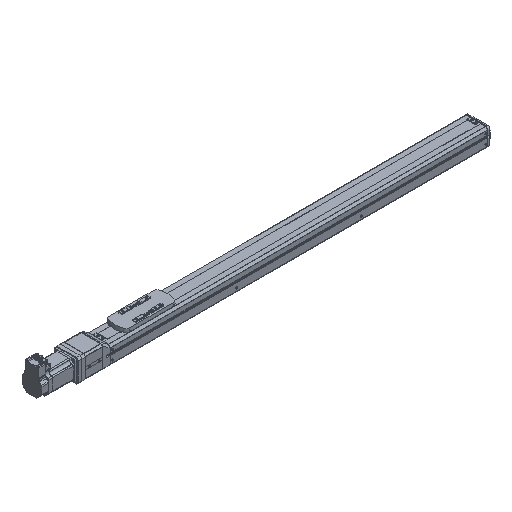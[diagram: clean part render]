
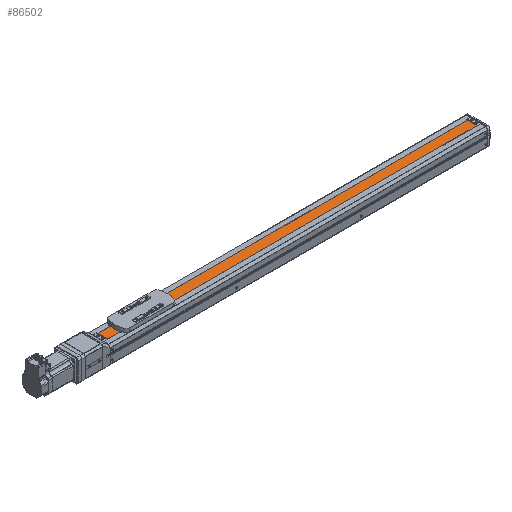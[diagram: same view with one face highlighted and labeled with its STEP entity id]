
A CAD part, isometric view. The second image highlights one B-rep face of the part: STEP entity #86502.
In plain terms, the highlighted planar face has unit normal (0, 0, 1) as drawn and (0, 1, 0) by its records, which use the part's own axes.
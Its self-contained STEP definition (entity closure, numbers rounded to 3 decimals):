
#86502 = ADVANCED_FACE('',(#86503),#86517,.T.);
#86503 = FACE_BOUND('',#86504,.T.);
#86504 = EDGE_LOOP('',(#86505,#86540,#86568,#86596));
#86505 = ORIENTED_EDGE('',*,*,#86506,.F.);
#86506 = EDGE_CURVE('',#86507,#86509,#86511,.T.);
#86507 = VERTEX_POINT('',#86508);
#86508 = CARTESIAN_POINT('',(-1030.5,18.,-13.));
#86509 = VERTEX_POINT('',#86510);
#86510 = CARTESIAN_POINT('',(-21.5,18.,-13.));
#86511 = SURFACE_CURVE('',#86512,(#86516,#86528),.PCURVE_S1.);
#86512 = LINE('',#86513,#86514);
#86513 = CARTESIAN_POINT('',(-1030.5,18.,-13.));
#86514 = VECTOR('',#86515,1.);
#86515 = DIRECTION('',(1.,0.,0.));
#86516 = PCURVE('',#86517,#86522);
#86517 = PLANE('',#86518);
#86518 = AXIS2_PLACEMENT_3D('',#86519,#86520,#86521);
#86519 = CARTESIAN_POINT('',(-1040.5,18.,-26.583));
#86520 = DIRECTION('',(0.,1.,0.));
#86521 = DIRECTION('',(0.,-0.,1.));
#86522 = DEFINITIONAL_REPRESENTATION('',(#86523),#86527);
#86523 = LINE('',#86524,#86525);
#86524 = CARTESIAN_POINT('',(13.583,10.));
#86525 = VECTOR('',#86526,1.);
#86526 = DIRECTION('',(0.,1.));
#86527 = ( GEOMETRIC_REPRESENTATION_CONTEXT(2) 
PARAMETRIC_REPRESENTATION_CONTEXT() REPRESENTATION_CONTEXT('2D SPACE',''
  ) );
#86528 = PCURVE('',#86529,#86534);
#86529 = PLANE('',#86530);
#86530 = AXIS2_PLACEMENT_3D('',#86531,#86532,#86533);
#86531 = CARTESIAN_POINT('',(-1030.5,18.,-13.));
#86532 = DIRECTION('',(0.,0.,1.));
#86533 = DIRECTION('',(1.,0.,-0.));
#86534 = DEFINITIONAL_REPRESENTATION('',(#86535),#86539);
#86535 = LINE('',#86536,#86537);
#86536 = CARTESIAN_POINT('',(0.,0.));
#86537 = VECTOR('',#86538,1.);
#86538 = DIRECTION('',(1.,0.));
#86539 = ( GEOMETRIC_REPRESENTATION_CONTEXT(2) 
PARAMETRIC_REPRESENTATION_CONTEXT() REPRESENTATION_CONTEXT('2D SPACE',''
  ) );
#86540 = ORIENTED_EDGE('',*,*,#86541,.T.);
#86541 = EDGE_CURVE('',#86507,#86542,#86544,.T.);
#86542 = VERTEX_POINT('',#86543);
#86543 = CARTESIAN_POINT('',(-1030.5,18.,13.));
#86544 = SURFACE_CURVE('',#86545,(#86549,#86556),.PCURVE_S1.);
#86545 = LINE('',#86546,#86547);
#86546 = CARTESIAN_POINT('',(-1030.5,18.,-26.583));
#86547 = VECTOR('',#86548,1.);
#86548 = DIRECTION('',(0.,0.,1.));
#86549 = PCURVE('',#86517,#86550);
#86550 = DEFINITIONAL_REPRESENTATION('',(#86551),#86555);
#86551 = LINE('',#86552,#86553);
#86552 = CARTESIAN_POINT('',(0.,10.));
#86553 = VECTOR('',#86554,1.);
#86554 = DIRECTION('',(1.,0.));
#86555 = ( GEOMETRIC_REPRESENTATION_CONTEXT(2) 
PARAMETRIC_REPRESENTATION_CONTEXT() REPRESENTATION_CONTEXT('2D SPACE',''
  ) );
#86556 = PCURVE('',#86557,#86562);
#86557 = PLANE('',#86558);
#86558 = AXIS2_PLACEMENT_3D('',#86559,#86560,#86561);
#86559 = CARTESIAN_POINT('',(-1030.5,0.,0.));
#86560 = DIRECTION('',(1.,0.,0.));
#86561 = DIRECTION('',(0.,0.,-1.));
#86562 = DEFINITIONAL_REPRESENTATION('',(#86563),#86567);
#86563 = LINE('',#86564,#86565);
#86564 = CARTESIAN_POINT('',(26.583,18.));
#86565 = VECTOR('',#86566,1.);
#86566 = DIRECTION('',(-1.,0.));
#86567 = ( GEOMETRIC_REPRESENTATION_CONTEXT(2) 
PARAMETRIC_REPRESENTATION_CONTEXT() REPRESENTATION_CONTEXT('2D SPACE',''
  ) );
#86568 = ORIENTED_EDGE('',*,*,#86569,.T.);
#86569 = EDGE_CURVE('',#86542,#86570,#86572,.T.);
#86570 = VERTEX_POINT('',#86571);
#86571 = CARTESIAN_POINT('',(-21.5,18.,13.));
#86572 = SURFACE_CURVE('',#86573,(#86577,#86584),.PCURVE_S1.);
#86573 = LINE('',#86574,#86575);
#86574 = CARTESIAN_POINT('',(-1030.5,18.,13.));
#86575 = VECTOR('',#86576,1.);
#86576 = DIRECTION('',(1.,0.,0.));
#86577 = PCURVE('',#86517,#86578);
#86578 = DEFINITIONAL_REPRESENTATION('',(#86579),#86583);
#86579 = LINE('',#86580,#86581);
#86580 = CARTESIAN_POINT('',(39.583,10.));
#86581 = VECTOR('',#86582,1.);
#86582 = DIRECTION('',(0.,1.));
#86583 = ( GEOMETRIC_REPRESENTATION_CONTEXT(2) 
PARAMETRIC_REPRESENTATION_CONTEXT() REPRESENTATION_CONTEXT('2D SPACE',''
  ) );
#86584 = PCURVE('',#86585,#86590);
#86585 = PLANE('',#86586);
#86586 = AXIS2_PLACEMENT_3D('',#86587,#86588,#86589);
#86587 = CARTESIAN_POINT('',(-1030.5,15.,13.));
#86588 = DIRECTION('',(0.,0.,-1.));
#86589 = DIRECTION('',(-1.,0.,0.));
#86590 = DEFINITIONAL_REPRESENTATION('',(#86591),#86595);
#86591 = LINE('',#86592,#86593);
#86592 = CARTESIAN_POINT('',(0.,3.));
#86593 = VECTOR('',#86594,1.);
#86594 = DIRECTION('',(-1.,0.));
#86595 = ( GEOMETRIC_REPRESENTATION_CONTEXT(2) 
PARAMETRIC_REPRESENTATION_CONTEXT() REPRESENTATION_CONTEXT('2D SPACE',''
  ) );
#86596 = ORIENTED_EDGE('',*,*,#86597,.T.);
#86597 = EDGE_CURVE('',#86570,#86509,#86598,.T.);
#86598 = SURFACE_CURVE('',#86599,(#86603,#86610),.PCURVE_S1.);
#86599 = LINE('',#86600,#86601);
#86600 = CARTESIAN_POINT('',(-21.5,18.,-26.583));
#86601 = VECTOR('',#86602,1.);
#86602 = DIRECTION('',(0.,0.,-1.));
#86603 = PCURVE('',#86517,#86604);
#86604 = DEFINITIONAL_REPRESENTATION('',(#86605),#86609);
#86605 = LINE('',#86606,#86607);
#86606 = CARTESIAN_POINT('',(0.,1019.));
#86607 = VECTOR('',#86608,1.);
#86608 = DIRECTION('',(-1.,0.));
#86609 = ( GEOMETRIC_REPRESENTATION_CONTEXT(2) 
PARAMETRIC_REPRESENTATION_CONTEXT() REPRESENTATION_CONTEXT('2D SPACE',''
  ) );
#86610 = PCURVE('',#86611,#86616);
#86611 = PLANE('',#86612);
#86612 = AXIS2_PLACEMENT_3D('',#86613,#86614,#86615);
#86613 = CARTESIAN_POINT('',(-21.5,0.,0.));
#86614 = DIRECTION('',(1.,0.,0.));
#86615 = DIRECTION('',(0.,0.,-1.));
#86616 = DEFINITIONAL_REPRESENTATION('',(#86617),#86621);
#86617 = LINE('',#86618,#86619);
#86618 = CARTESIAN_POINT('',(26.583,18.));
#86619 = VECTOR('',#86620,1.);
#86620 = DIRECTION('',(1.,0.));
#86621 = ( GEOMETRIC_REPRESENTATION_CONTEXT(2) 
PARAMETRIC_REPRESENTATION_CONTEXT() REPRESENTATION_CONTEXT('2D SPACE',''
  ) );
